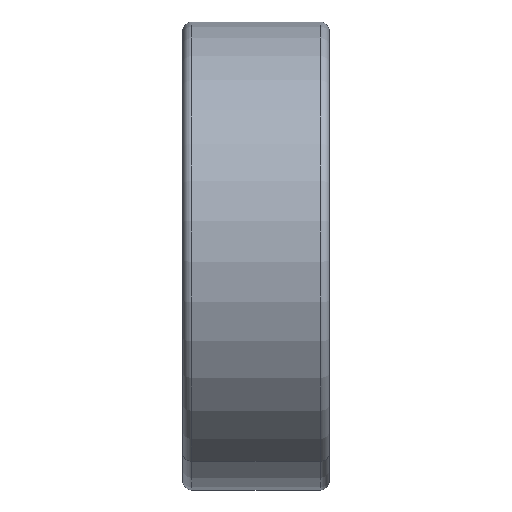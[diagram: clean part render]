
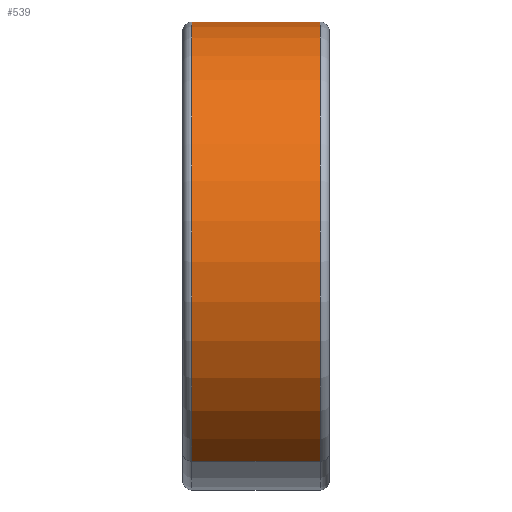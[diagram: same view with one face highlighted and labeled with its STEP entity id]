
A CAD part, left-side view. The second image highlights one B-rep face of the part: STEP entity #539.
In plain terms, the highlighted cylindrical face has radius 16 mm (diameter 32 mm), a partial arc.
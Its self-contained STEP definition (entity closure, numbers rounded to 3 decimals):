
#483=CARTESIAN_POINT('Axis2P3D Location',(0.,0.,0.)) ;
#492=CARTESIAN_POINT('Vertex',(7.671,4.4,14.041)) ;
#494=CARTESIAN_POINT('Vertex',(-7.671,4.4,-14.041)) ;
#497=CARTESIAN_POINT('Line Origine',(7.671,0.,14.041)) ;
#501=CARTESIAN_POINT('Vertex',(7.671,-4.4,14.041)) ;
#508=CARTESIAN_POINT('Vertex',(-7.671,-4.4,-14.041)) ;
#511=CARTESIAN_POINT('Line Origine',(-7.671,0.,-14.041)) ;
#523=CARTESIAN_POINT('Axis2P3D Location',(0.,4.4,0.)) ;
#528=CARTESIAN_POINT('Axis2P3D Location',(0.,-4.4,0.)) ;
#484=DIRECTION('Axis2P3D Direction',(0.,1.,0.)) ;
#485=DIRECTION('Axis2P3D XDirection',(0.479,-0.,0.878)) ;
#498=DIRECTION('Vector Direction',(0.,1.,0.)) ;
#512=DIRECTION('Vector Direction',(0.,1.,0.)) ;
#524=DIRECTION('Axis2P3D Direction',(0.,1.,0.)) ;
#529=DIRECTION('Axis2P3D Direction',(0.,1.,0.)) ;
#486=AXIS2_PLACEMENT_3D('Cylinder Axis2P3D',#483,#484,#485) ;
#525=AXIS2_PLACEMENT_3D('Circle Axis2P3D',#523,#524,$) ;
#530=AXIS2_PLACEMENT_3D('Circle Axis2P3D',#528,#529,$) ;
#534=ORIENTED_EDGE('',*,*,#527,.F.) ;
#535=ORIENTED_EDGE('',*,*,#515,.T.) ;
#536=ORIENTED_EDGE('',*,*,#532,.T.) ;
#537=ORIENTED_EDGE('',*,*,#503,.F.) ;
#499=VECTOR('Line Direction',#498,1.) ;
#513=VECTOR('Line Direction',#512,1.) ;
#539=ADVANCED_FACE('PartBody',(#538),#487,.T.) ;
#526=CIRCLE('generated circle',#525,16.) ;
#531=CIRCLE('generated circle',#530,16.) ;
#487=CYLINDRICAL_SURFACE('generated cylinder',#486,16.) ;
#503=EDGE_CURVE('',#493,#502,#500,.F.) ;
#515=EDGE_CURVE('',#495,#509,#514,.F.) ;
#527=EDGE_CURVE('',#495,#493,#526,.T.) ;
#532=EDGE_CURVE('',#509,#502,#531,.T.) ;
#533=EDGE_LOOP('',(#534,#535,#536,#537)) ;
#538=FACE_OUTER_BOUND('',#533,.T.) ;
#500=LINE('Line',#497,#499) ;
#514=LINE('Line',#511,#513) ;
#493=VERTEX_POINT('',#492) ;
#495=VERTEX_POINT('',#494) ;
#502=VERTEX_POINT('',#501) ;
#509=VERTEX_POINT('',#508) ;
